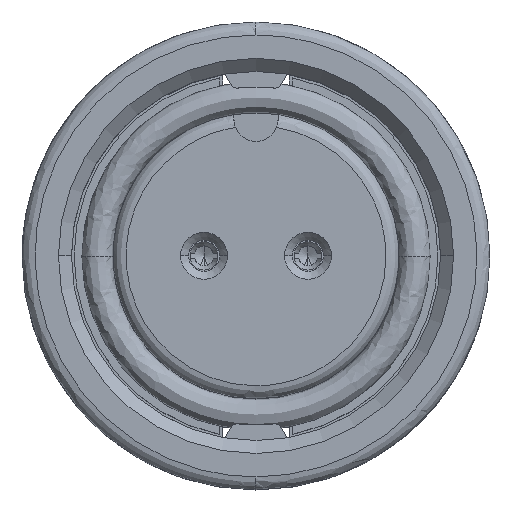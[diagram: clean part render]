
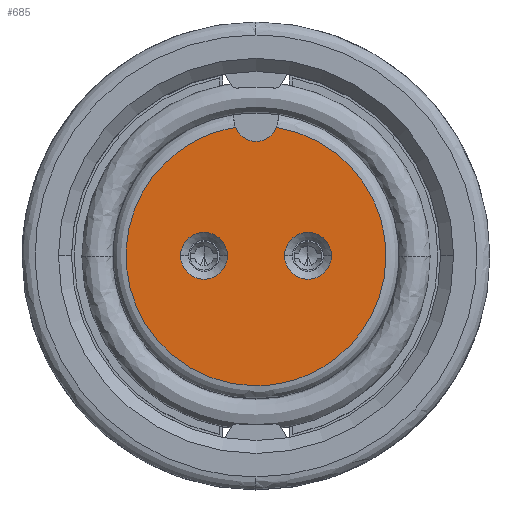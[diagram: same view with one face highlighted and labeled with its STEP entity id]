
A CAD part, top view. The second image highlights one B-rep face of the part: STEP entity #685.
In plain terms, the highlighted planar face has unit normal (0, 0, 1).
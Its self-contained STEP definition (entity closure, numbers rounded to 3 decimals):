
#26 = CARTESIAN_POINT ( 'NONE',  ( -0.061, -5., 0. ) ) ;
#40 = EDGE_CURVE ( 'NONE', #1530, #8829, #6767, .T. ) ;
#204 = FACE_BOUND ( 'NONE', #7385, .T. ) ;
#384 = CARTESIAN_POINT ( 'NONE',  ( -8.571, -4.896, 0. ) ) ;
#433 = CARTESIAN_POINT ( 'NONE',  ( -0.061, -5., 0. ) ) ;
#685 = ADVANCED_FACE ( 'NONE', ( #6545, #204, #9512 ), #3106, .T. ) ;
#895 = CIRCLE ( 'NONE', #11216, 0.9 ) ;
#1032 = AXIS2_PLACEMENT_3D ( 'NONE', #7556, #2092, #10425 ) ;
#1121 = DIRECTION ( 'NONE',  ( 1., 0., 0. ) ) ;
#1371 = DIRECTION ( 'NONE',  ( 1., 0., 0. ) ) ;
#1530 = VERTEX_POINT ( 'NONE', #11639 ) ;
#1702 = CIRCLE ( 'NONE', #11453, 0.9 ) ;
#2092 = DIRECTION ( 'NONE',  ( 0., 0., 1. ) ) ;
#2143 = CARTESIAN_POINT ( 'NONE',  ( 0.79, 4.937, 0. ) ) ;
#2236 = VERTEX_POINT ( 'NONE', #3143 ) ;
#2359 = AXIS2_PLACEMENT_3D ( 'NONE', #11448, #6278, #9935 ) ;
#2629 = ORIENTED_EDGE ( 'NONE', *, *, #4918, .F. ) ;
#3106 = PLANE ( 'NONE',  #1032 ) ;
#3143 = CARTESIAN_POINT ( 'NONE',  ( 0.79, 4.937, 0. ) ) ;
#3176 = CARTESIAN_POINT ( 'NONE',  ( -2., 0., 0. ) ) ;
#3918 = ORIENTED_EDGE ( 'NONE', *, *, #8896, .T. ) ;
#3925 = DIRECTION ( 'NONE',  ( 0., 0., -1. ) ) ;
#3970 = VERTEX_POINT ( 'NONE', #26 ) ;
#4293 = CIRCLE ( 'NONE', #8879, 0.9 ) ;
#4461 = EDGE_CURVE ( 'NONE', #3970, #10296, #7625, .T. ) ;
#4582 = DIRECTION ( 'NONE',  ( 1., 0., 0. ) ) ;
#4635 = CARTESIAN_POINT ( 'NONE',  ( 2., 0., 0. ) ) ;
#4918 = EDGE_CURVE ( 'NONE', #2236, #3970, #7698, .T. ) ;
#4950 = EDGE_CURVE ( 'NONE', #5601, #10093, #4293, .T. ) ;
#4973 = CARTESIAN_POINT ( 'NONE',  ( -0.79, 4.937, 0. ) ) ;
#5038 = EDGE_LOOP ( 'NONE', ( #7670, #3918 ) ) ;
#5096 = CARTESIAN_POINT ( 'NONE',  ( -9.194, 3.592, 0. ) ) ;
#5601 = VERTEX_POINT ( 'NONE', #11786 ) ;
#5664 = CARTESIAN_POINT ( 'NONE',  ( 0., 5.25, 0. ) ) ;
#5831 = ORIENTED_EDGE ( 'NONE', *, *, #10984, .T. ) ;
#5914 = DIRECTION ( 'NONE',  ( 0., 0., -1. ) ) ;
#6278 = DIRECTION ( 'NONE',  ( 0., 0., -1. ) ) ;
#6545 = FACE_BOUND ( 'NONE', #5038, .T. ) ;
#6767 = CIRCLE ( 'NONE', #2359, 0.9 ) ;
#6837 = CARTESIAN_POINT ( 'NONE',  ( 9.38, 3.562, 0. ) ) ;
#6848 = DIRECTION ( 'NONE',  ( 1., 0., 0. ) ) ;
#7139 = ORIENTED_EDGE ( 'NONE', *, *, #4461, .F. ) ;
#7338 = DIRECTION ( 'NONE',  ( 0., 0., -1. ) ) ;
#7381 = CARTESIAN_POINT ( 'NONE',  ( -1.1, 0., 0. ) ) ;
#7385 = EDGE_LOOP ( 'NONE', ( #9731, #10705 ) ) ;
#7556 = CARTESIAN_POINT ( 'NONE',  ( 0.002, -0.031, 0. ) ) ;
#7616 = AXIS2_PLACEMENT_3D ( 'NONE', #5664, #3925, #1121 ) ;
#7625 =( BOUNDED_CURVE ( )  B_SPLINE_CURVE ( 3, ( #433, #384, #5096, #4973 ),
 .UNSPECIFIED., .F., .T. ) 
 B_SPLINE_CURVE_WITH_KNOTS ( ( 4, 4 ),
 ( 0., 1. ),
 .UNSPECIFIED. ) 
 CURVE ( )  GEOMETRIC_REPRESENTATION_ITEM ( )  RATIONAL_B_SPLINE_CURVE ( ( 1., 0.39, 0.39, 1. ) ) 
 REPRESENTATION_ITEM ( '' )  );
#7670 = ORIENTED_EDGE ( 'NONE', *, *, #4950, .T. ) ;
#7676 = CARTESIAN_POINT ( 'NONE',  ( -0.061, -5., 0. ) ) ;
#7698 =( BOUNDED_CURVE ( )  B_SPLINE_CURVE ( 3, ( #2143, #6837, #9448, #7676 ),
 .UNSPECIFIED., .F., .T. ) 
 B_SPLINE_CURVE_WITH_KNOTS ( ( 4, 4 ),
 ( 0., 1. ),
 .UNSPECIFIED. ) 
 CURVE ( )  GEOMETRIC_REPRESENTATION_ITEM ( )  RATIONAL_B_SPLINE_CURVE ( ( 1., 0.382, 0.382, 1. ) ) 
 REPRESENTATION_ITEM ( '' )  );
#7733 = CARTESIAN_POINT ( 'NONE',  ( -2., 0., 0. ) ) ;
#8829 = VERTEX_POINT ( 'NONE', #9580 ) ;
#8879 = AXIS2_PLACEMENT_3D ( 'NONE', #7733, #5914, #1371 ) ;
#8896 = EDGE_CURVE ( 'NONE', #10093, #5601, #895, .T. ) ;
#9448 = CARTESIAN_POINT ( 'NONE',  ( 8.638, -5.106, 0. ) ) ;
#9512 = FACE_OUTER_BOUND ( 'NONE', #11348, .T. ) ;
#9580 = CARTESIAN_POINT ( 'NONE',  ( 1.1, 0., 0. ) ) ;
#9731 = ORIENTED_EDGE ( 'NONE', *, *, #10276, .T. ) ;
#9767 = DIRECTION ( 'NONE',  ( 0., 0., -1. ) ) ;
#9935 = DIRECTION ( 'NONE',  ( 1., 0., 0. ) ) ;
#10093 = VERTEX_POINT ( 'NONE', #7381 ) ;
#10276 = EDGE_CURVE ( 'NONE', #8829, #1530, #1702, .T. ) ;
#10289 = CIRCLE ( 'NONE', #7616, 0.85 ) ;
#10296 = VERTEX_POINT ( 'NONE', #10442 ) ;
#10425 = DIRECTION ( 'NONE',  ( 1., 0., 0. ) ) ;
#10442 = CARTESIAN_POINT ( 'NONE',  ( -0.79, 4.937, 0. ) ) ;
#10705 = ORIENTED_EDGE ( 'NONE', *, *, #40, .T. ) ;
#10984 = EDGE_CURVE ( 'NONE', #2236, #10296, #10289, .T. ) ;
#11216 = AXIS2_PLACEMENT_3D ( 'NONE', #3176, #9767, #6848 ) ;
#11348 = EDGE_LOOP ( 'NONE', ( #2629, #5831, #7139 ) ) ;
#11448 = CARTESIAN_POINT ( 'NONE',  ( 2., 0., 0. ) ) ;
#11453 = AXIS2_PLACEMENT_3D ( 'NONE', #4635, #7338, #4582 ) ;
#11639 = CARTESIAN_POINT ( 'NONE',  ( 2.9, 0., 0. ) ) ;
#11786 = CARTESIAN_POINT ( 'NONE',  ( -2.9, 0., 0. ) ) ;
